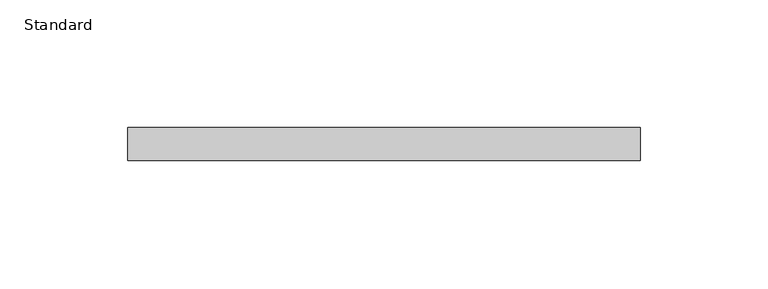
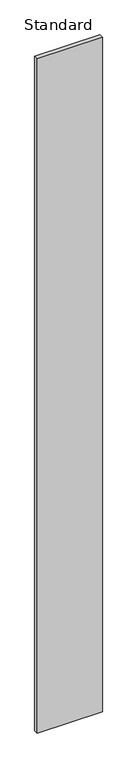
"""IFC4 building model written with IfcOpenShell, lengths in millimetres: furniture geometry, X_Partition-Compact Laminate-Duracube-Rectangular : Standard."""

from ifc_helpers import new_model, si_unit, frame, origin, place, context, project, spatial, polyline, outline, extrude, source, transform, mapped, element, save


def standard_bb5a53c5(model_context):
    return source(origin(), model_context, "Body", "SweptSolid", [
        extrude(outline(polyline([(145.2003264, 0.0), (145.2003264, -13.0), (-55.7996736, -13.0), (-55.7996736, 0.0), (145.2003264, 0.0)])), frame((0.0, 0.0, 200.0), z_axis=(0.0, 0.0, 1.0), x_axis=(1.0, 0.0, 0.0)), (0.0, 0.0, 1.0), 2198.0),
    ])


if __name__ == "__main__":
    model = new_model("IFC4")
    model_context = context("Model", 3, world=origin())
    ifc_project = project(units=[si_unit("LENGTHUNIT", "METRE", prefix="MILLI")], contexts=[model_context])
    site = spatial("IfcSite", under=ifc_project)
    building = spatial("IfcBuilding", under=site)
    placement = place(None, origin())
    standard_shape = standard_bb5a53c5(model_context)
    element("IfcFurniture", 1, ObjectType="X_Partition-Compact Laminate-Duracube-Rectangular : Standard", at=placement, inside=building, context=model_context, shape_type="MappedRepresentation", body=[
        mapped(standard_shape, transform((0.0, 0.0, 0.0), x_axis=(1.0, 0.0, 0.0), y_axis=(0.0, 1.0, 0.0), z_axis=(0.0, 0.0, 1.0))),
    ])
    save(model, "model.ifc")
